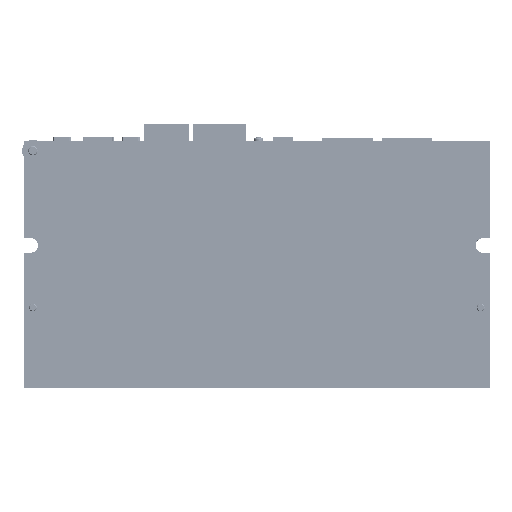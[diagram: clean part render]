
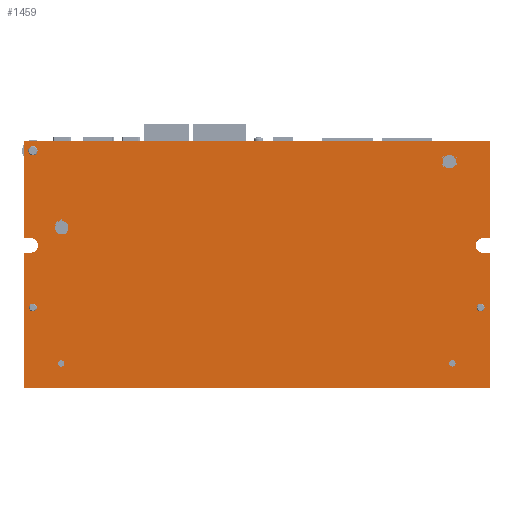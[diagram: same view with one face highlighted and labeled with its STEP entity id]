
A CAD part, top view. The second image highlights one B-rep face of the part: STEP entity #1459.
In plain terms, the highlighted planar face has unit normal (0, 0, 1).
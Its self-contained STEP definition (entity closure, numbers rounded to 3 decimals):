
#59=DIRECTION('',(0.,-1.,0.));
#60=VECTOR('',#59,43.65);
#61=CARTESIAN_POINT('',(-75.1,43.65,0.));
#62=LINE('',#61,#60);
#143=DIRECTION('',(0.,-1.,0.));
#144=VECTOR('',#143,31.15);
#145=CARTESIAN_POINT('',(-75.1,79.5,0.));
#146=LINE('',#145,#144);
#164=DIRECTION('',(1.,0.,0.));
#165=VECTOR('',#164,150.2);
#166=CARTESIAN_POINT('',(-75.1,0.,0.));
#167=LINE('',#166,#165);
#240=CARTESIAN_POINT('',(-63.,8.,0.));
#241=DIRECTION('',(0.,0.,-1.));
#242=DIRECTION('',(1.,0.,0.));
#243=AXIS2_PLACEMENT_3D('',#240,#241,#242);
#248=CARTESIAN_POINT('',(-63.,8.,0.));
#249=DIRECTION('',(0.,0.,-1.));
#250=DIRECTION('',(-1.,0.,0.));
#251=AXIS2_PLACEMENT_3D('',#248,#249,#250);
#256=CARTESIAN_POINT('',(63.,8.,0.));
#257=DIRECTION('',(0.,0.,-1.));
#258=DIRECTION('',(1.,0.,0.));
#259=AXIS2_PLACEMENT_3D('',#256,#257,#258);
#264=CARTESIAN_POINT('',(63.,8.,0.));
#265=DIRECTION('',(0.,0.,-1.));
#266=DIRECTION('',(-1.,0.,0.));
#267=AXIS2_PLACEMENT_3D('',#264,#265,#266);
#272=CARTESIAN_POINT('',(-62.8,51.725,0.));
#273=DIRECTION('',(0.,0.,1.));
#274=DIRECTION('',(1.,0.,0.));
#275=AXIS2_PLACEMENT_3D('',#272,#273,#274);
#280=CARTESIAN_POINT('',(-62.8,51.725,0.));
#281=DIRECTION('',(0.,0.,1.));
#282=DIRECTION('',(-1.,0.,0.));
#283=AXIS2_PLACEMENT_3D('',#280,#281,#282);
#288=CARTESIAN_POINT('',(62.,73.,0.));
#289=DIRECTION('',(0.,0.,1.));
#290=DIRECTION('',(1.,0.,0.));
#291=AXIS2_PLACEMENT_3D('',#288,#289,#290);
#296=CARTESIAN_POINT('',(62.,73.,0.));
#297=DIRECTION('',(0.,0.,1.));
#298=DIRECTION('',(-1.,0.,0.));
#299=AXIS2_PLACEMENT_3D('',#296,#297,#298);
#304=CARTESIAN_POINT('',(-72.1,76.5,0.));
#305=DIRECTION('',(0.,0.,1.));
#306=DIRECTION('',(1.,0.,0.));
#307=AXIS2_PLACEMENT_3D('',#304,#305,#306);
#312=CARTESIAN_POINT('',(-72.1,76.5,0.));
#313=DIRECTION('',(0.,0.,1.));
#314=DIRECTION('',(-1.,0.,0.));
#315=AXIS2_PLACEMENT_3D('',#312,#313,#314);
#320=CARTESIAN_POINT('',(-72.1,26.,0.));
#321=DIRECTION('',(0.,0.,1.));
#322=DIRECTION('',(1.,0.,0.));
#323=AXIS2_PLACEMENT_3D('',#320,#321,#322);
#328=CARTESIAN_POINT('',(-72.1,26.,0.));
#329=DIRECTION('',(0.,0.,1.));
#330=DIRECTION('',(-1.,0.,0.));
#331=AXIS2_PLACEMENT_3D('',#328,#329,#330);
#336=CARTESIAN_POINT('',(72.1,26.,0.));
#337=DIRECTION('',(0.,0.,1.));
#338=DIRECTION('',(1.,0.,0.));
#339=AXIS2_PLACEMENT_3D('',#336,#337,#338);
#344=CARTESIAN_POINT('',(72.1,26.,0.));
#345=DIRECTION('',(0.,0.,1.));
#346=DIRECTION('',(-1.,0.,0.));
#347=AXIS2_PLACEMENT_3D('',#344,#345,#346);
#352=DIRECTION('',(-1.,0.,0.));
#353=VECTOR('',#352,2.3);
#354=CARTESIAN_POINT('',(75.1,43.65,0.));
#355=LINE('',#354,#353);
#359=DIRECTION('',(1.,0.,0.));
#360=VECTOR('',#359,2.3);
#361=CARTESIAN_POINT('',(-75.1,43.65,0.));
#362=LINE('',#361,#360);
#366=CARTESIAN_POINT('',(-72.8,46.,0.));
#367=DIRECTION('',(0.,0.,-1.));
#368=DIRECTION('',(0.,1.,0.));
#369=AXIS2_PLACEMENT_3D('',#366,#367,#368);
#374=DIRECTION('',(1.,0.,0.));
#375=VECTOR('',#374,2.3);
#376=CARTESIAN_POINT('',(-75.1,48.35,0.));
#377=LINE('',#376,#375);
#381=DIRECTION('',(1.,0.,0.));
#382=VECTOR('',#381,150.2);
#383=CARTESIAN_POINT('',(-75.1,79.5,0.));
#384=LINE('',#383,#382);
#388=DIRECTION('',(-1.,0.,0.));
#389=VECTOR('',#388,2.3);
#390=CARTESIAN_POINT('',(75.1,48.35,0.));
#391=LINE('',#390,#389);
#395=CARTESIAN_POINT('',(72.8,46.,0.));
#396=DIRECTION('',(0.,0.,-1.));
#397=DIRECTION('',(0.,-1.,0.));
#398=AXIS2_PLACEMENT_3D('',#395,#396,#397);
#595=DIRECTION('',(0.,-1.,0.));
#596=VECTOR('',#595,31.15);
#597=CARTESIAN_POINT('',(75.1,79.5,0.));
#598=LINE('',#597,#596);
#658=DIRECTION('',(0.,-1.,0.));
#659=VECTOR('',#658,43.65);
#660=CARTESIAN_POINT('',(75.1,43.65,0.));
#661=LINE('',#660,#659);
#1078=CARTESIAN_POINT('',(-75.1,79.5,0.));
#1080=VERTEX_POINT('',#1078);
#1086=CARTESIAN_POINT('',(75.1,79.5,0.));
#1088=VERTEX_POINT('',#1086);
#1089=CARTESIAN_POINT('',(-75.1,0.,0.));
#1090=CARTESIAN_POINT('',(75.1,0.,0.));
#1091=VERTEX_POINT('',#1089);
#1092=VERTEX_POINT('',#1090);
#1097=CARTESIAN_POINT('',(-60.675,51.725,0.));
#1098=CARTESIAN_POINT('',(-64.925,51.725,0.));
#1099=VERTEX_POINT('',#1097);
#1100=VERTEX_POINT('',#1098);
#1105=CARTESIAN_POINT('',(64.125,73.,0.));
#1106=CARTESIAN_POINT('',(59.875,73.,0.));
#1107=VERTEX_POINT('',#1105);
#1108=VERTEX_POINT('',#1106);
#1123=CARTESIAN_POINT('',(-70.6,76.5,0.));
#1124=CARTESIAN_POINT('',(-73.6,76.5,0.));
#1125=VERTEX_POINT('',#1123);
#1126=VERTEX_POINT('',#1124);
#1131=CARTESIAN_POINT('',(-70.85,26.,0.));
#1132=CARTESIAN_POINT('',(-73.35,26.,0.));
#1133=VERTEX_POINT('',#1131);
#1134=VERTEX_POINT('',#1132);
#1139=CARTESIAN_POINT('',(73.35,26.,0.));
#1140=CARTESIAN_POINT('',(70.85,26.,0.));
#1141=VERTEX_POINT('',#1139);
#1142=VERTEX_POINT('',#1140);
#1143=CARTESIAN_POINT('',(-75.1,48.35,0.));
#1145=VERTEX_POINT('',#1143);
#1147=CARTESIAN_POINT('',(-75.1,43.65,0.));
#1149=VERTEX_POINT('',#1147);
#1155=CARTESIAN_POINT('',(-72.8,48.35,0.));
#1156=VERTEX_POINT('',#1155);
#1157=CARTESIAN_POINT('',(-72.8,43.65,0.));
#1158=VERTEX_POINT('',#1157);
#1167=CARTESIAN_POINT('',(72.8,43.65,0.));
#1168=VERTEX_POINT('',#1167);
#1169=CARTESIAN_POINT('',(72.8,48.35,0.));
#1170=VERTEX_POINT('',#1169);
#1171=CARTESIAN_POINT('',(75.1,43.65,0.));
#1172=VERTEX_POINT('',#1171);
#1173=CARTESIAN_POINT('',(75.1,48.35,0.));
#1174=VERTEX_POINT('',#1173);
#1233=CARTESIAN_POINT('',(-61.975,8.,0.));
#1234=CARTESIAN_POINT('',(-64.025,8.,0.));
#1235=VERTEX_POINT('',#1233);
#1236=VERTEX_POINT('',#1234);
#1241=CARTESIAN_POINT('',(64.025,8.,0.));
#1242=CARTESIAN_POINT('',(61.975,8.,0.));
#1243=VERTEX_POINT('',#1241);
#1244=VERTEX_POINT('',#1242);
#1389=CARTESIAN_POINT('',(-75.1,79.5,0.));
#1390=DIRECTION('',(0.,0.,1.));
#1391=DIRECTION('',(0.,-1.,0.));
#1392=AXIS2_PLACEMENT_3D('',#1389,#1390,#1391);
#1393=PLANE('',#1392);
#1395=ORIENTED_EDGE('',*,*,#1394,.F.);
#1397=ORIENTED_EDGE('',*,*,#1396,.T.);
#1398=ORIENTED_EDGE('',*,*,#1355,.F.);
#1399=ORIENTED_EDGE('',*,*,#1286,.F.);
#1401=ORIENTED_EDGE('',*,*,#1400,.T.);
#1403=ORIENTED_EDGE('',*,*,#1402,.F.);
#1405=ORIENTED_EDGE('',*,*,#1404,.F.);
#1406=ORIENTED_EDGE('',*,*,#1326,.F.);
#1408=ORIENTED_EDGE('',*,*,#1407,.T.);
#1410=ORIENTED_EDGE('',*,*,#1409,.T.);
#1412=ORIENTED_EDGE('',*,*,#1411,.T.);
#1414=ORIENTED_EDGE('',*,*,#1413,.F.);
#1415=EDGE_LOOP('',(#1395,#1397,#1398,#1399,#1401,#1403,#1405,#1406,#1408,#1410,
#1412,#1414));
#1416=FACE_OUTER_BOUND('',#1415,.F.);
#1418=ORIENTED_EDGE('',*,*,#1417,.F.);
#1420=ORIENTED_EDGE('',*,*,#1419,.F.);
#1421=EDGE_LOOP('',(#1418,#1420));
#1422=FACE_BOUND('',#1421,.F.);
#1424=ORIENTED_EDGE('',*,*,#1423,.T.);
#1426=ORIENTED_EDGE('',*,*,#1425,.T.);
#1427=EDGE_LOOP('',(#1424,#1426));
#1428=FACE_BOUND('',#1427,.F.);
#1430=ORIENTED_EDGE('',*,*,#1429,.T.);
#1432=ORIENTED_EDGE('',*,*,#1431,.T.);
#1433=EDGE_LOOP('',(#1430,#1432));
#1434=FACE_BOUND('',#1433,.F.);
#1436=ORIENTED_EDGE('',*,*,#1435,.T.);
#1438=ORIENTED_EDGE('',*,*,#1437,.T.);
#1439=EDGE_LOOP('',(#1436,#1438));
#1440=FACE_BOUND('',#1439,.F.);
#1442=ORIENTED_EDGE('',*,*,#1441,.T.);
#1444=ORIENTED_EDGE('',*,*,#1443,.T.);
#1445=EDGE_LOOP('',(#1442,#1444));
#1446=FACE_BOUND('',#1445,.F.);
#1448=ORIENTED_EDGE('',*,*,#1447,.T.);
#1450=ORIENTED_EDGE('',*,*,#1449,.T.);
#1451=EDGE_LOOP('',(#1448,#1450));
#1452=FACE_BOUND('',#1451,.F.);
#1454=ORIENTED_EDGE('',*,*,#1453,.F.);
#1456=ORIENTED_EDGE('',*,*,#1455,.F.);
#1457=EDGE_LOOP('',(#1454,#1456));
#1458=FACE_BOUND('',#1457,.F.);
#244=CIRCLE('',#243,1.025);
#252=CIRCLE('',#251,1.025);
#260=CIRCLE('',#259,1.025);
#268=CIRCLE('',#267,1.025);
#276=CIRCLE('',#275,2.125);
#284=CIRCLE('',#283,2.125);
#292=CIRCLE('',#291,2.125);
#300=CIRCLE('',#299,2.125);
#308=CIRCLE('',#307,1.5);
#316=CIRCLE('',#315,1.5);
#324=CIRCLE('',#323,1.25);
#332=CIRCLE('',#331,1.25);
#340=CIRCLE('',#339,1.25);
#348=CIRCLE('',#347,1.25);
#370=CIRCLE('',#369,2.35);
#399=CIRCLE('',#398,2.35);
#1286=EDGE_CURVE('',#1149,#1091,#62,.T.);
#1326=EDGE_CURVE('',#1080,#1145,#146,.T.);
#1355=EDGE_CURVE('',#1091,#1092,#167,.T.);
#1394=EDGE_CURVE('',#1172,#1168,#355,.T.);
#1396=EDGE_CURVE('',#1172,#1092,#661,.T.);
#1400=EDGE_CURVE('',#1149,#1158,#362,.T.);
#1402=EDGE_CURVE('',#1156,#1158,#370,.T.);
#1404=EDGE_CURVE('',#1145,#1156,#377,.T.);
#1407=EDGE_CURVE('',#1080,#1088,#384,.T.);
#1409=EDGE_CURVE('',#1088,#1174,#598,.T.);
#1411=EDGE_CURVE('',#1174,#1170,#391,.T.);
#1413=EDGE_CURVE('',#1168,#1170,#399,.T.);
#1417=EDGE_CURVE('',#1243,#1244,#260,.T.);
#1419=EDGE_CURVE('',#1244,#1243,#268,.T.);
#1423=EDGE_CURVE('',#1099,#1100,#276,.T.);
#1425=EDGE_CURVE('',#1100,#1099,#284,.T.);
#1429=EDGE_CURVE('',#1107,#1108,#292,.T.);
#1431=EDGE_CURVE('',#1108,#1107,#300,.T.);
#1435=EDGE_CURVE('',#1125,#1126,#308,.T.);
#1437=EDGE_CURVE('',#1126,#1125,#316,.T.);
#1441=EDGE_CURVE('',#1133,#1134,#324,.T.);
#1443=EDGE_CURVE('',#1134,#1133,#332,.T.);
#1447=EDGE_CURVE('',#1141,#1142,#340,.T.);
#1449=EDGE_CURVE('',#1142,#1141,#348,.T.);
#1453=EDGE_CURVE('',#1235,#1236,#244,.T.);
#1455=EDGE_CURVE('',#1236,#1235,#252,.T.);
#1459=ADVANCED_FACE('',(#1416,#1422,#1428,#1434,#1440,#1446,#1452,#1458),#1393,
.T.);
